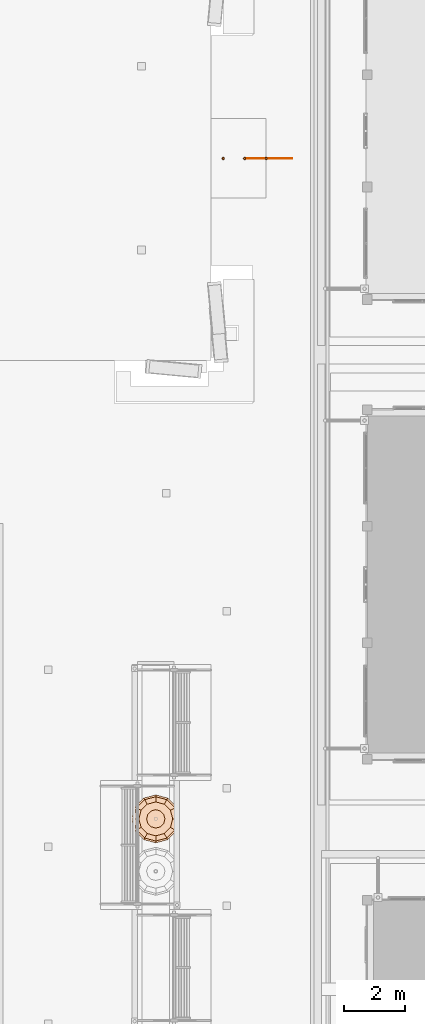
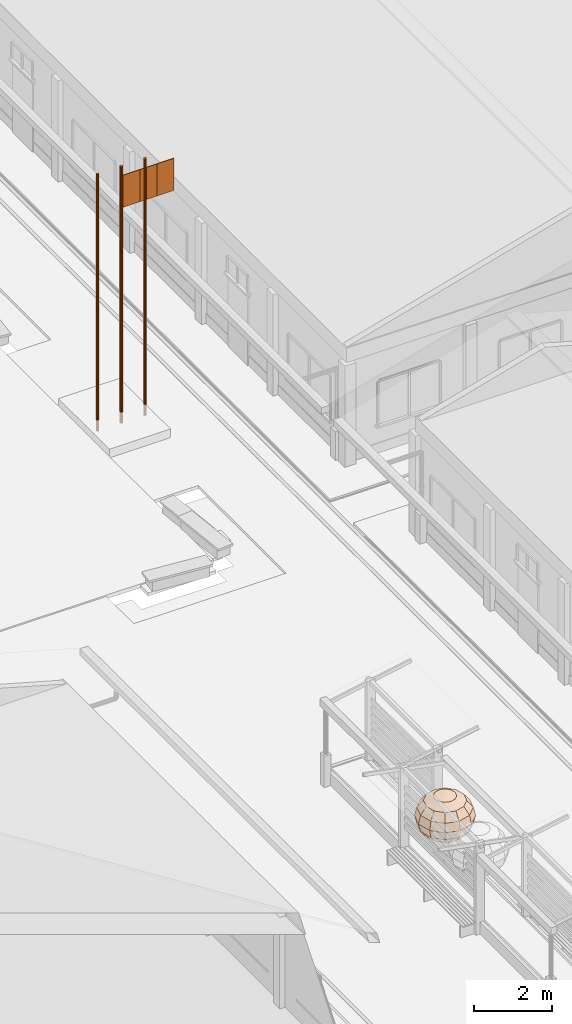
# One storey, part 162 of 177: 6 proxies, 1 geographic element.
"""IFC4 building model written with IfcOpenShell, lengths in metres."""

from ifc_helpers import new_model, si_unit, origin, origin_with_axes, place, context, subcontext, project, spatial, triangles, element, save


model = new_model("IFC4")

# Units and contexts
model_context = context("Model", 3, precision=1e-05, world=origin_with_axes())
body_context = subcontext(model_context, "Body", "Model", "MODEL_VIEW")
ifc_project = project(units=[si_unit("LENGTHUNIT", "METRE"), si_unit("AREAUNIT", "SQUARE_METRE"), si_unit("VOLUMEUNIT", "CUBIC_METRE"), si_unit("PLANEANGLEUNIT", "RADIAN")], contexts=[model_context])

# Site, building, storey
site_placement = place(None, origin_with_axes())
site = spatial("IfcSite", under=ifc_project, at=site_placement, Name="Predio Los Mangos - Morales, San Martín", CompositionType="ELEMENT")
building_placement = place(site_placement, origin())
building = spatial("IfcBuilding", under=site, at=building_placement, Name="Hogar de Refugio Temporal", CompositionType="ELEMENT")
storey_placement = place(building_placement, origin())
storey = spatial("IfcBuildingStorey", under=building, at=storey_placement, Name="NIVEL 1 (NPT +0.00)", CompositionType="ELEMENT", Elevation=0.0)

# Proxies
proxy_1_placement = place(storey_placement, origin())
element("IfcBuildingElementProxy", 1, at=proxy_1_placement, inside=storey, Name="Cylinder", ObjectType="Elemento", PredefinedType="NOTDEFINED", context=body_context, shape_type="Tessellation", body=[
    triangles([(40.6, 62.54, 0.0), (40.6, 62.54, 8.0), (40.6078, 62.5392, 0.0), (40.6078, 62.5392, 8.0), (40.6153, 62.537, 0.0), (40.6153, 62.537, 8.0), (40.6222, 62.5333, 0.0), (40.6222, 62.5333, 8.0), (40.6283, 62.5283, 0.0), (40.6283, 62.5283, 8.0), (40.6333, 62.5222, 0.0), (40.6333, 62.5222, 8.0), (40.637, 62.5153, 0.0), (40.637, 62.5153, 8.0), (40.6392, 62.5078, 0.0), (40.6392, 62.5078, 8.0), (40.64, 62.5, 0.0), (40.64, 62.5, 8.0), (40.6392, 62.4922, 0.0), (40.6392, 62.4922, 8.0), (40.637, 62.4847, 0.0), (40.637, 62.4847, 8.0), (40.6333, 62.4778, 0.0), (40.6333, 62.4778, 8.0), (40.6283, 62.4717, 0.0), (40.6283, 62.4717, 8.0), (40.6222, 62.4667, 0.0), (40.6222, 62.4667, 8.0), (40.6153, 62.463, 0.0), (40.6153, 62.463, 8.0), (40.6078, 62.4608, 0.0), (40.6078, 62.4608, 8.0), (40.6, 62.46, 0.0), (40.6, 62.46, 8.0), (40.5922, 62.4608, 0.0), (40.5922, 62.4608, 8.0), (40.5847, 62.463, 0.0), (40.5847, 62.463, 8.0), (40.5778, 62.4667, 0.0), (40.5778, 62.4667, 8.0), (40.5717, 62.4717, 0.0), (40.5717, 62.4717, 8.0), (40.5667, 62.4778, 0.0), (40.5667, 62.4778, 8.0), (40.563, 62.4847, 0.0), (40.563, 62.4847, 8.0), (40.5608, 62.4922, 0.0), (40.5608, 62.4922, 8.0), (40.56, 62.5, 0.0), (40.56, 62.5, 8.0), (40.5608, 62.5078, 0.0), (40.5608, 62.5078, 8.0), (40.563, 62.5153, 0.0), (40.563, 62.5153, 8.0), (40.5667, 62.5222, 0.0), (40.5667, 62.5222, 8.0), (40.5717, 62.5283, 0.0), (40.5717, 62.5283, 8.0), (40.5778, 62.5333, 0.0), (40.5778, 62.5333, 8.0), (40.5847, 62.537, 0.0), (40.5847, 62.537, 8.0), (40.5922, 62.5392, 0.0), (40.5922, 62.5392, 8.0)], [[1, 2, 4], [1, 4, 3], [3, 4, 6], [3, 6, 5], [5, 6, 8], [5, 8, 7], [7, 8, 10], [7, 10, 9], [9, 10, 12], [9, 12, 11], [11, 12, 14], [11, 14, 13], [13, 14, 16], [13, 16, 15], [15, 16, 18], [15, 18, 17], [17, 18, 20], [17, 20, 19], [19, 20, 22], [19, 22, 21], [21, 22, 24], [21, 24, 23], [23, 24, 26], [23, 26, 25], [25, 26, 28], [25, 28, 27], [27, 28, 30], [27, 30, 29], [29, 30, 32], [29, 32, 31], [31, 32, 34], [31, 34, 33], [33, 34, 36], [33, 36, 35], [35, 36, 38], [35, 38, 37], [37, 38, 40], [37, 40, 39], [39, 40, 42], [39, 42, 41], [41, 42, 44], [41, 44, 43], [43, 44, 46], [43, 46, 45], [45, 46, 48], [45, 48, 47], [47, 48, 50], [47, 50, 49], [49, 50, 52], [49, 52, 51], [51, 52, 54], [51, 54, 53], [53, 54, 56], [53, 56, 55], [55, 56, 58], [55, 58, 57], [57, 58, 60], [57, 60, 59], [59, 60, 62], [59, 62, 61], [6, 4, 2], [2, 64, 62], [62, 60, 58], [58, 56, 54], [54, 52, 50], [50, 48, 46], [46, 44, 42], [42, 40, 38], [38, 36, 34], [34, 32, 30], [30, 28, 26], [26, 24, 22], [22, 20, 18], [18, 16, 14], [14, 12, 10], [10, 8, 6], [6, 2, 62], [62, 58, 54], [54, 50, 46], [46, 42, 38], [38, 34, 30], [30, 26, 22], [22, 18, 14], [14, 10, 6], [6, 62, 54], [54, 46, 38], [38, 30, 22], [22, 14, 6], [6, 54, 38], [38, 22, 6], [61, 62, 64], [61, 64, 63], [63, 64, 2], [63, 2, 1], [63, 1, 3], [3, 5, 7], [7, 9, 11], [11, 13, 15], [15, 17, 19], [19, 21, 23], [23, 25, 27], [27, 29, 31], [31, 33, 35], [35, 37, 39], [39, 41, 43], [43, 45, 47], [47, 49, 51], [51, 53, 55], [55, 57, 59], [59, 61, 63], [63, 3, 7], [7, 11, 15], [15, 19, 23], [23, 27, 31], [31, 35, 39], [39, 43, 47], [47, 51, 55], [55, 59, 63], [63, 7, 15], [15, 23, 31], [31, 39, 47], [47, 55, 63], [63, 15, 31], [31, 47, 63]]),
])
proxy_2_placement = place(storey_placement, origin())
element("IfcBuildingElementProxy", 2, at=proxy_2_placement, inside=storey, Name="Cylinder", ObjectType="Elemento", PredefinedType="NOTDEFINED", context=body_context, shape_type="Tessellation", body=[
    triangles([(41.3, 62.54, 0.0), (41.3, 62.54, 8.0), (41.3078, 62.5392, 0.0), (41.3078, 62.5392, 8.0), (41.3153, 62.537, 0.0), (41.3153, 62.537, 8.0), (41.3222, 62.5333, 0.0), (41.3222, 62.5333, 8.0), (41.3283, 62.5283, 0.0), (41.3283, 62.5283, 8.0), (41.3333, 62.5222, 0.0), (41.3333, 62.5222, 8.0), (41.337, 62.5153, 0.0), (41.337, 62.5153, 8.0), (41.3392, 62.5078, 0.0), (41.3392, 62.5078, 8.0), (41.34, 62.5, 0.0), (41.34, 62.5, 8.0), (41.3392, 62.4922, 0.0), (41.3392, 62.4922, 8.0), (41.337, 62.4847, 0.0), (41.337, 62.4847, 8.0), (41.3333, 62.4778, 0.0), (41.3333, 62.4778, 8.0), (41.3283, 62.4717, 0.0), (41.3283, 62.4717, 8.0), (41.3222, 62.4667, 0.0), (41.3222, 62.4667, 8.0), (41.3153, 62.463, 0.0), (41.3153, 62.463, 8.0), (41.3078, 62.4608, 0.0), (41.3078, 62.4608, 8.0), (41.3, 62.46, 0.0), (41.3, 62.46, 8.0), (41.2922, 62.4608, 0.0), (41.2922, 62.4608, 8.0), (41.2847, 62.463, 0.0), (41.2847, 62.463, 8.0), (41.2778, 62.4667, 0.0), (41.2778, 62.4667, 8.0), (41.2717, 62.4717, 0.0), (41.2717, 62.4717, 8.0), (41.2667, 62.4778, 0.0), (41.2667, 62.4778, 8.0), (41.263, 62.4847, 0.0), (41.263, 62.4847, 8.0), (41.2608, 62.4922, 0.0), (41.2608, 62.4922, 8.0), (41.26, 62.5, 0.0), (41.26, 62.5, 8.0), (41.2608, 62.5078, 0.0), (41.2608, 62.5078, 8.0), (41.263, 62.5153, 0.0), (41.263, 62.5153, 8.0), (41.2667, 62.5222, 0.0), (41.2667, 62.5222, 8.0), (41.2717, 62.5283, 0.0), (41.2717, 62.5283, 8.0), (41.2778, 62.5333, 0.0), (41.2778, 62.5333, 8.0), (41.2847, 62.537, 0.0), (41.2847, 62.537, 8.0), (41.2922, 62.5392, 0.0), (41.2922, 62.5392, 8.0)], [[1, 2, 4], [1, 4, 3], [3, 4, 6], [3, 6, 5], [5, 6, 8], [5, 8, 7], [7, 8, 10], [7, 10, 9], [9, 10, 12], [9, 12, 11], [11, 12, 14], [11, 14, 13], [13, 14, 16], [13, 16, 15], [15, 16, 18], [15, 18, 17], [17, 18, 20], [17, 20, 19], [19, 20, 22], [19, 22, 21], [21, 22, 24], [21, 24, 23], [23, 24, 26], [23, 26, 25], [25, 26, 28], [25, 28, 27], [27, 28, 30], [27, 30, 29], [29, 30, 32], [29, 32, 31], [31, 32, 34], [31, 34, 33], [33, 34, 36], [33, 36, 35], [35, 36, 38], [35, 38, 37], [37, 38, 40], [37, 40, 39], [39, 40, 42], [39, 42, 41], [41, 42, 44], [41, 44, 43], [43, 44, 46], [43, 46, 45], [45, 46, 48], [45, 48, 47], [47, 48, 50], [47, 50, 49], [49, 50, 52], [49, 52, 51], [51, 52, 54], [51, 54, 53], [53, 54, 56], [53, 56, 55], [55, 56, 58], [55, 58, 57], [57, 58, 60], [57, 60, 59], [59, 60, 62], [59, 62, 61], [6, 4, 2], [2, 64, 62], [62, 60, 58], [58, 56, 54], [54, 52, 50], [50, 48, 46], [46, 44, 42], [42, 40, 38], [38, 36, 34], [34, 32, 30], [30, 28, 26], [26, 24, 22], [22, 20, 18], [18, 16, 14], [14, 12, 10], [10, 8, 6], [6, 2, 62], [62, 58, 54], [54, 50, 46], [46, 42, 38], [38, 34, 30], [30, 26, 22], [22, 18, 14], [14, 10, 6], [6, 62, 54], [54, 46, 38], [38, 30, 22], [22, 14, 6], [6, 54, 38], [38, 22, 6], [61, 62, 64], [61, 64, 63], [63, 64, 2], [63, 2, 1], [63, 1, 3], [3, 5, 7], [7, 9, 11], [11, 13, 15], [15, 17, 19], [19, 21, 23], [23, 25, 27], [27, 29, 31], [31, 33, 35], [35, 37, 39], [39, 41, 43], [43, 45, 47], [47, 49, 51], [51, 53, 55], [55, 57, 59], [59, 61, 63], [63, 3, 7], [7, 11, 15], [15, 19, 23], [23, 27, 31], [31, 35, 39], [39, 43, 47], [47, 51, 55], [55, 59, 63], [63, 7, 15], [15, 23, 31], [31, 39, 47], [47, 55, 63], [63, 15, 31], [31, 47, 63]]),
])
proxy_3_placement = place(storey_placement, origin())
element("IfcBuildingElementProxy", 3, at=proxy_3_placement, inside=storey, Name="bandera", ObjectType="Asta de banderas", PredefinedType="NOTDEFINED", context=body_context, shape_type="Tessellation", body=[
    triangles([(41.35, 62.49, 6.7), (41.85, 62.49, 6.7), (41.85, 62.51, 6.7), (41.35, 62.51, 6.7), (41.35, 62.49, 7.7), (41.85, 62.49, 7.7), (41.85, 62.51, 7.7), (41.35, 62.51, 7.7)], [[1, 4, 3], [1, 3, 2], [5, 6, 7], [5, 7, 8], [1, 2, 6], [1, 6, 5], [2, 3, 7], [2, 7, 6], [3, 4, 8], [3, 8, 7], [4, 1, 5], [4, 5, 8]]),
])
proxy_4_placement = place(storey_placement, origin())
element("IfcBuildingElementProxy", 4, at=proxy_4_placement, inside=storey, Name="bandera", ObjectType="Asta de banderas", PredefinedType="NOTDEFINED", context=body_context, shape_type="Tessellation", body=[
    triangles([(41.85, 62.49, 6.7), (42.35, 62.49, 6.7), (42.35, 62.51, 6.7), (41.85, 62.51, 6.7), (41.85, 62.49, 7.7), (42.35, 62.49, 7.7), (42.35, 62.51, 7.7), (41.85, 62.51, 7.7)], [[1, 4, 3], [1, 3, 2], [5, 6, 7], [5, 7, 8], [1, 2, 6], [1, 6, 5], [2, 3, 7], [2, 7, 6], [3, 4, 8], [3, 8, 7], [4, 1, 5], [4, 5, 8]]),
])
proxy_5_placement = place(storey_placement, origin())
element("IfcBuildingElementProxy", 5, at=proxy_5_placement, inside=storey, Name="bandera", ObjectType="Asta de banderas", PredefinedType="NOTDEFINED", context=body_context, shape_type="Tessellation", body=[
    triangles([(42.35, 62.49, 6.7), (42.85, 62.49, 6.7), (42.85, 62.51, 6.7), (42.35, 62.51, 6.7), (42.35, 62.49, 7.7), (42.85, 62.49, 7.7), (42.85, 62.51, 7.7), (42.35, 62.51, 7.7)], [[1, 4, 3], [1, 3, 2], [5, 6, 7], [5, 7, 8], [1, 2, 6], [1, 6, 5], [2, 3, 7], [2, 7, 6], [3, 4, 8], [3, 8, 7], [4, 1, 5], [4, 5, 8]]),
])
proxy_6_placement = place(storey_placement, origin())
element("IfcBuildingElementProxy", 6, at=proxy_6_placement, inside=storey, Name="Cylinder", ObjectType="Elemento", PredefinedType="NOTDEFINED", context=body_context, shape_type="Tessellation", body=[
    triangles([(42.0, 62.54, 0.0), (42.0, 62.54, 8.0), (42.0078, 62.5392, 0.0), (42.0078, 62.5392, 8.0), (42.0153, 62.537, 0.0), (42.0153, 62.537, 8.0), (42.0222, 62.5333, 0.0), (42.0222, 62.5333, 8.0), (42.0283, 62.5283, 0.0), (42.0283, 62.5283, 8.0), (42.0333, 62.5222, 0.0), (42.0333, 62.5222, 8.0), (42.037, 62.5153, 0.0), (42.037, 62.5153, 8.0), (42.0392, 62.5078, 0.0), (42.0392, 62.5078, 8.0), (42.04, 62.5, 0.0), (42.04, 62.5, 8.0), (42.0392, 62.4922, 0.0), (42.0392, 62.4922, 8.0), (42.037, 62.4847, 0.0), (42.037, 62.4847, 8.0), (42.0333, 62.4778, 0.0), (42.0333, 62.4778, 8.0), (42.0283, 62.4717, 0.0), (42.0283, 62.4717, 8.0), (42.0222, 62.4667, 0.0), (42.0222, 62.4667, 8.0), (42.0153, 62.463, 0.0), (42.0153, 62.463, 8.0), (42.0078, 62.4608, 0.0), (42.0078, 62.4608, 8.0), (42.0, 62.46, 0.0), (42.0, 62.46, 8.0), (41.9922, 62.4608, 0.0), (41.9922, 62.4608, 8.0), (41.9847, 62.463, 0.0), (41.9847, 62.463, 8.0), (41.9778, 62.4667, 0.0), (41.9778, 62.4667, 8.0), (41.9717, 62.4717, 0.0), (41.9717, 62.4717, 8.0), (41.9667, 62.4778, 0.0), (41.9667, 62.4778, 8.0), (41.963, 62.4847, 0.0), (41.963, 62.4847, 8.0), (41.9608, 62.4922, 0.0), (41.9608, 62.4922, 8.0), (41.96, 62.5, 0.0), (41.96, 62.5, 8.0), (41.9608, 62.5078, 0.0), (41.9608, 62.5078, 8.0), (41.963, 62.5153, 0.0), (41.963, 62.5153, 8.0), (41.9667, 62.5222, 0.0), (41.9667, 62.5222, 8.0), (41.9717, 62.5283, 0.0), (41.9717, 62.5283, 8.0), (41.9778, 62.5333, 0.0), (41.9778, 62.5333, 8.0), (41.9847, 62.537, 0.0), (41.9847, 62.537, 8.0), (41.9922, 62.5392, 0.0), (41.9922, 62.5392, 8.0)], [[1, 2, 4], [1, 4, 3], [3, 4, 6], [3, 6, 5], [5, 6, 8], [5, 8, 7], [7, 8, 10], [7, 10, 9], [9, 10, 12], [9, 12, 11], [11, 12, 14], [11, 14, 13], [13, 14, 16], [13, 16, 15], [15, 16, 18], [15, 18, 17], [17, 18, 20], [17, 20, 19], [19, 20, 22], [19, 22, 21], [21, 22, 24], [21, 24, 23], [23, 24, 26], [23, 26, 25], [25, 26, 28], [25, 28, 27], [27, 28, 30], [27, 30, 29], [29, 30, 32], [29, 32, 31], [31, 32, 34], [31, 34, 33], [33, 34, 36], [33, 36, 35], [35, 36, 38], [35, 38, 37], [37, 38, 40], [37, 40, 39], [39, 40, 42], [39, 42, 41], [41, 42, 44], [41, 44, 43], [43, 44, 46], [43, 46, 45], [45, 46, 48], [45, 48, 47], [47, 48, 50], [47, 50, 49], [49, 50, 52], [49, 52, 51], [51, 52, 54], [51, 54, 53], [53, 54, 56], [53, 56, 55], [55, 56, 58], [55, 58, 57], [57, 58, 60], [57, 60, 59], [59, 60, 62], [59, 62, 61], [6, 4, 2], [2, 64, 62], [62, 60, 58], [58, 56, 54], [54, 52, 50], [50, 48, 46], [46, 44, 42], [42, 40, 38], [38, 36, 34], [34, 32, 30], [30, 28, 26], [26, 24, 22], [22, 20, 18], [18, 16, 14], [14, 12, 10], [10, 8, 6], [6, 2, 62], [62, 58, 54], [54, 50, 46], [46, 42, 38], [38, 34, 30], [30, 26, 22], [22, 18, 14], [14, 10, 6], [6, 62, 54], [54, 46, 38], [38, 30, 22], [22, 14, 6], [6, 54, 38], [38, 22, 6], [61, 62, 64], [61, 64, 63], [63, 64, 2], [63, 2, 1], [63, 1, 3], [3, 5, 7], [7, 9, 11], [11, 13, 15], [15, 17, 19], [19, 21, 23], [23, 25, 27], [27, 29, 31], [31, 33, 35], [35, 37, 39], [39, 41, 43], [43, 45, 47], [47, 49, 51], [51, 53, 55], [55, 57, 59], [59, 61, 63], [63, 3, 7], [7, 11, 15], [15, 19, 23], [23, 27, 31], [31, 35, 39], [39, 43, 47], [47, 51, 55], [55, 59, 63], [63, 7, 15], [15, 23, 31], [31, 39, 47], [47, 55, 63], [63, 15, 31], [31, 47, 63]]),
])

# Geographic element
geographic_element_placement = place(storey_placement, origin())
element("IfcGeographicElement", 7, at=geographic_element_placement, inside=storey, Name="arbol_copa", ObjectType="Árbol", PredefinedType="NOTDEFINED", context=body_context, shape_type="Tessellation", body=[
    triangles([(38.4, 40.955, 2.5172), (38.4, 40.955, 2.5172), (38.4, 40.955, 2.5172), (38.4, 40.955, 2.5172), (38.4, 40.955, 2.5172), (38.4, 40.955, 2.5172), (38.4, 40.955, 2.5172), (38.4, 40.955, 2.5172), (38.4, 40.955, 2.5172), (38.4, 40.955, 2.5172), (38.4, 40.955, 2.5172), (38.4, 40.955, 2.5172), (38.6993, 40.955, 2.4666), (38.6592, 41.1046, 2.4666), (38.5496, 41.2142, 2.4666), (38.4, 41.2543, 2.4666), (38.2504, 41.2142, 2.4666), (38.1408, 41.1046, 2.4666), (38.1007, 40.955, 2.4666), (38.1408, 40.8054, 2.4666), (38.2504, 40.6958, 2.4666), (38.4, 40.6557, 2.4666), (38.5496, 40.6958, 2.4666), (38.6592, 40.8054, 2.4666), (38.953, 40.955, 2.3225), (38.8789, 41.2315, 2.3225), (38.6765, 41.4339, 2.3225), (38.4, 41.508, 2.3225), (38.1235, 41.4339, 2.3225), (37.9211, 41.2315, 2.3225), (37.847, 40.955, 2.3225), (37.9211, 40.6785, 2.3225), (38.1235, 40.4761, 2.3225), (38.4, 40.402, 2.3225), (38.6765, 40.4761, 2.3225), (38.8789, 40.6785, 2.3225), (39.1225, 40.955, 2.1069), (39.0257, 41.3162, 2.1069), (38.7612, 41.5807, 2.1069), (38.4, 41.6775, 2.1069), (38.0388, 41.5807, 2.1069), (37.7743, 41.3162, 2.1069), (37.6775, 40.955, 2.1069), (37.7743, 40.5938, 2.1069), (38.0388, 40.3293, 2.1069), (38.4, 40.2325, 2.1069), (38.7612, 40.3293, 2.1069), (39.0257, 40.5938, 2.1069), (39.182, 40.955, 1.8525), (39.0772, 41.346, 1.8525), (38.791, 41.6322, 1.8525), (38.4, 41.737, 1.8525), (38.009, 41.6322, 1.8525), (37.7228, 41.346, 1.8525), (37.618, 40.955, 1.8525), (37.7228, 40.564, 1.8525), (38.009, 40.2778, 1.8525), (38.4, 40.173, 1.8525), (38.791, 40.2778, 1.8525), (39.0772, 40.564, 1.8525), (39.1225, 40.955, 1.5981), (39.0257, 41.3162, 1.5981), (38.7612, 41.5807, 1.5981), (38.4, 41.6775, 1.5981), (38.0388, 41.5807, 1.5981), (37.7743, 41.3162, 1.5981), (37.6775, 40.955, 1.5981), (37.7743, 40.5938, 1.5981), (38.0388, 40.3293, 1.5981), (38.4, 40.2325, 1.5981), (38.7612, 40.3293, 1.5981), (39.0257, 40.5938, 1.5981), (38.953, 40.955, 1.3825), (38.8789, 41.2315, 1.3825), (38.6765, 41.4339, 1.3825), (38.4, 41.508, 1.3825), (38.1235, 41.4339, 1.3825), (37.9211, 41.2315, 1.3825), (37.847, 40.955, 1.3825), (37.9211, 40.6785, 1.3825), (38.1235, 40.4761, 1.3825), (38.4, 40.402, 1.3825), (38.6765, 40.4761, 1.3825), (38.8789, 40.6785, 1.3825), (38.6993, 40.955, 1.2384), (38.6592, 41.1046, 1.2384), (38.5496, 41.2142, 1.2384), (38.4, 41.2543, 1.2384), (38.2504, 41.2142, 1.2384), (38.1408, 41.1046, 1.2384), (38.1007, 40.955, 1.2384), (38.1408, 40.8054, 1.2384), (38.2504, 40.6958, 1.2384), (38.4, 40.6557, 1.2384), (38.5496, 40.6958, 1.2384), (38.6592, 40.8054, 1.2384), (38.4, 40.955, 1.1878), (38.4, 40.955, 1.1878), (38.4, 40.955, 1.1878), (38.4, 40.955, 1.1878), (38.4, 40.955, 1.1878), (38.4, 40.955, 1.1878), (38.4, 40.955, 1.1878), (38.4, 40.955, 1.1878), (38.4, 40.955, 1.1878), (38.4, 40.955, 1.1878), (38.4, 40.955, 1.1878), (38.4, 40.955, 1.1878)], [[1, 2, 14], [1, 14, 13], [2, 3, 15], [2, 15, 14], [3, 4, 16], [3, 16, 15], [4, 5, 17], [4, 17, 16], [5, 6, 18], [5, 18, 17], [6, 7, 19], [6, 19, 18], [7, 8, 20], [7, 20, 19], [8, 9, 21], [8, 21, 20], [9, 10, 22], [9, 22, 21], [10, 11, 23], [10, 23, 22], [11, 12, 24], [11, 24, 23], [12, 1, 13], [12, 13, 24], [13, 14, 26], [13, 26, 25], [14, 15, 27], [14, 27, 26], [15, 16, 28], [15, 28, 27], [16, 17, 29], [16, 29, 28], [17, 18, 30], [17, 30, 29], [18, 19, 31], [18, 31, 30], [19, 20, 32], [19, 32, 31], [20, 21, 33], [20, 33, 32], [21, 22, 34], [21, 34, 33], [22, 23, 35], [22, 35, 34], [23, 24, 36], [23, 36, 35], [24, 13, 25], [24, 25, 36], [25, 26, 38], [25, 38, 37], [26, 27, 39], [26, 39, 38], [27, 28, 40], [27, 40, 39], [28, 29, 41], [28, 41, 40], [29, 30, 42], [29, 42, 41], [30, 31, 43], [30, 43, 42], [31, 32, 44], [31, 44, 43], [32, 33, 45], [32, 45, 44], [33, 34, 46], [33, 46, 45], [34, 35, 47], [34, 47, 46], [35, 36, 48], [35, 48, 47], [36, 25, 37], [36, 37, 48], [37, 38, 50], [37, 50, 49], [38, 39, 51], [38, 51, 50], [39, 40, 52], [39, 52, 51], [40, 41, 53], [40, 53, 52], [41, 42, 54], [41, 54, 53], [42, 43, 55], [42, 55, 54], [43, 44, 56], [43, 56, 55], [44, 45, 57], [44, 57, 56], [45, 46, 58], [45, 58, 57], [46, 47, 59], [46, 59, 58], [47, 48, 60], [47, 60, 59], [48, 37, 49], [48, 49, 60], [49, 50, 62], [49, 62, 61], [50, 51, 63], [50, 63, 62], [51, 52, 64], [51, 64, 63], [52, 53, 65], [52, 65, 64], [53, 54, 66], [53, 66, 65], [54, 55, 67], [54, 67, 66], [55, 56, 68], [55, 68, 67], [56, 57, 69], [56, 69, 68], [57, 58, 70], [57, 70, 69], [58, 59, 71], [58, 71, 70], [59, 60, 72], [59, 72, 71], [60, 49, 61], [60, 61, 72], [61, 62, 74], [61, 74, 73], [62, 63, 75], [62, 75, 74], [63, 64, 76], [63, 76, 75], [64, 65, 77], [64, 77, 76], [65, 66, 78], [65, 78, 77], [66, 67, 79], [66, 79, 78], [67, 68, 80], [67, 80, 79], [68, 69, 81], [68, 81, 80], [69, 70, 82], [69, 82, 81], [70, 71, 83], [70, 83, 82], [71, 72, 84], [71, 84, 83], [72, 61, 73], [72, 73, 84], [73, 74, 86], [73, 86, 85], [74, 75, 87], [74, 87, 86], [75, 76, 88], [75, 88, 87], [76, 77, 89], [76, 89, 88], [77, 78, 90], [77, 90, 89], [78, 79, 91], [78, 91, 90], [79, 80, 92], [79, 92, 91], [80, 81, 93], [80, 93, 92], [81, 82, 94], [81, 94, 93], [82, 83, 95], [82, 95, 94], [83, 84, 96], [83, 96, 95], [84, 73, 85], [84, 85, 96], [85, 86, 98], [85, 98, 97], [86, 87, 99], [86, 99, 98], [87, 88, 100], [87, 100, 99], [88, 89, 101], [88, 101, 100], [89, 90, 102], [89, 102, 101], [90, 91, 103], [90, 103, 102], [91, 92, 104], [91, 104, 103], [92, 93, 105], [92, 105, 104], [93, 94, 106], [93, 106, 105], [94, 95, 107], [94, 107, 106], [95, 96, 108], [95, 108, 107], [96, 85, 97], [96, 97, 108]]),
])

save(model, "model.ifc")
